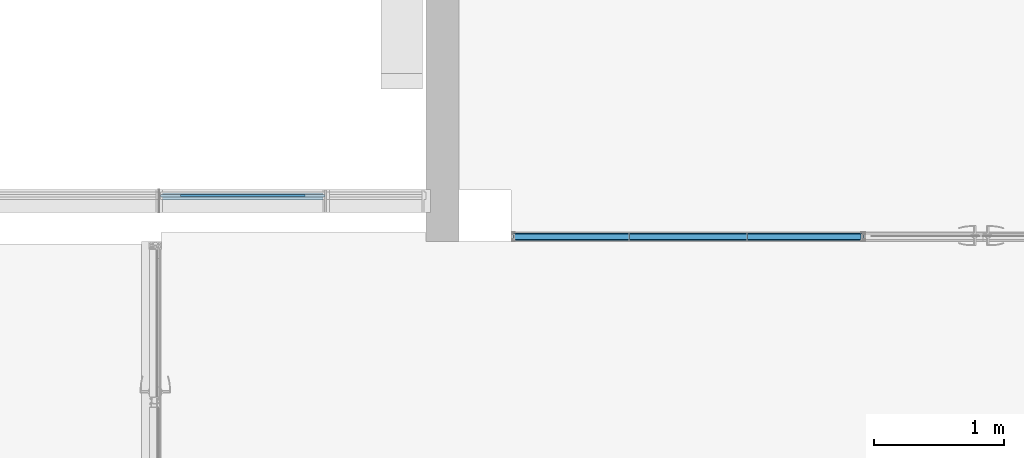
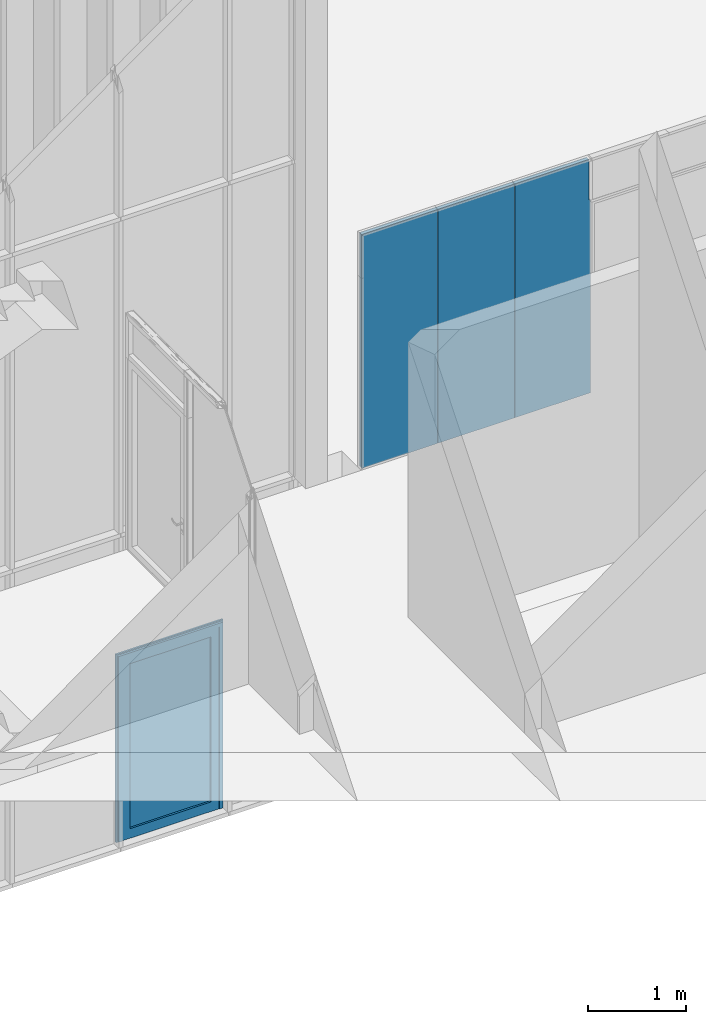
# One storey, part 42 of 62: 8 building element parts, 6 elements without a shape of their own.
"""IFC2X3 building model written with IfcOpenShell, lengths in millimetres."""

from ifc_helpers import new_model, entity, si_unit, converted_unit, derived_unit, money_unit, direction, frame, origin_with_axes, place, context, subcontext, project, spatial, faceted_brep, material, type_object, element, aggregate, save


model = new_model("IFC2X3")

# Units and contexts
model_context = context("Model", 3, precision=0.01, world=origin_with_axes(), true_north=direction((0.0, 1.0)))
body_context = subcontext(model_context, "Body", "Model", "MODEL_VIEW")
ifc_project = project(units=[si_unit("LENGTHUNIT", "METRE", prefix="MILLI"), si_unit("AREAUNIT", "SQUARE_METRE"), si_unit("VOLUMEUNIT", "CUBIC_METRE"), converted_unit("PLANEANGLEUNIT", "DEGREE", entity("IfcPlaneAngleMeasure", 0.0174532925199), si_unit("PLANEANGLEUNIT", "RADIAN"), dimensions=[0, 0, 0, 0, 0, 0, 0]), si_unit("SOLIDANGLEUNIT", "STERADIAN"), money_unit("EUR"), converted_unit("TIMEUNIT", "Year", entity("IfcTimeMeasure", 31556926.0), si_unit("TIMEUNIT", "SECOND"), dimensions=[0, 0, 1, 0, 0, 0, 0]), si_unit("MASSUNIT", "GRAM", prefix="KILO"), si_unit("THERMODYNAMICTEMPERATUREUNIT", "DEGREE_CELSIUS"), si_unit("LUMINOUSINTENSITYUNIT", "LUMEN"), si_unit("ENERGYUNIT", "JOULE", prefix="MEGA"), derived_unit("THERMALCONDUCTANCEUNIT", [(si_unit("POWERUNIT", "WATT"), 1), (si_unit("LENGTHUNIT", "METRE"), -1), (si_unit("THERMODYNAMICTEMPERATUREUNIT", "KELVIN"), -1)]), derived_unit("SPECIFICHEATCAPACITYUNIT", [(si_unit("ENERGYUNIT", "JOULE"), 1), (si_unit("MASSUNIT", "GRAM", prefix="KILO"), -1), (si_unit("THERMODYNAMICTEMPERATUREUNIT", "KELVIN"), -1)]), derived_unit("MASSDENSITYUNIT", [(si_unit("MASSUNIT", "GRAM", prefix="KILO"), 1), (si_unit("VOLUMEUNIT", "CUBIC_METRE"), -1)])], contexts=[model_context])

# Site, building, storey
site_placement = place(None, origin_with_axes())
site = spatial("IfcSite", under=ifc_project, at=site_placement, Name="Puškini 31, Narva", CompositionType="ELEMENT")
building_placement = place(site_placement, origin_with_axes())
building = spatial("IfcBuilding", under=site, at=building_placement, Name="Narva Riigigümnaasium", CompositionType="ELEMENT")
storey_placement = place(building_placement, frame((0.0, 0.0, 660.0), z_axis=(0.0, 0.0, 1.0), x_axis=(1.0, 0.0, 0.0)))
storey = spatial("IfcBuildingStorey", under=building, at=storey_placement, Name="2.korrus +0.66", CompositionType="ELEMENT", Elevation=660.0)

# Curtain wall, door, building element parts
curtain_wall_type = type_object("IfcCurtainWallType", Name="Curtain Wall Type", PredefinedType="NOTDEFINED")
curtain_wall_1_placement = place(storey_placement, frame((29287.8078111, 224154.987122, -3960.0), z_axis=(0.0, 0.0, 1.0), x_axis=(1.0, 0.0, 0.0)))
curtain_wall_1 = element("IfcCurtainWall", 1, at=curtain_wall_1_placement, inside=storey, type_object=curtain_wall_type, Name="G-KLF-05")
door_style = type_object("IfcDoorStyle", Name="3 x 2355 x 20", ConstructionType="NOTDEFINED", OperationType="NOTDEFINED", ParameterTakesPrecedence=False, Sizeable=False)
door_placement = place(curtain_wall_1_placement, frame((6452.3748062, 0.0, 1200.00000063), z_axis=(0.0, 0.0, 1.0), x_axis=(1.0, 0.0, 0.0)))
door = element("IfcDoor", 2, at=door_placement, type_object=door_style, Name="G-KLF-05-VU-01", ObjectType="DOOR")
aggregate(curtain_wall_1, [door])
ifc_material_1 = material(Name="ET-04_Alumiinium")
building_element_part_1_placement = place(door_placement, origin_with_axes())
building_element_part_1 = element("IfcBuildingElementPart", 3, at=building_element_part_1_placement, material=ifc_material_1, Name="ET-04_Alumiinium", context=body_context, shape_type="Brep", body=[
    faceted_brep([(-829.381638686, -35.0, -1150.00000061), (-829.381638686, -35.0, 1175.00000062), (-829.381638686, -30.0, 1175.00000062), (-829.381638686, -30.0, -1150.00000061), (-784.381638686, -35.0, -1150.00000061), (-784.381638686, -35.0, 1130.00000062), (-784.381638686, -30.0, 1130.00000062), (-784.381638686, -30.0, -1150.00000061)], [[[0, 1, 2, 3]], [[0, 4, 5, 1]], [[1, 5, 6, 2]], [[3, 2, 6, 7]], [[4, 0, 3, 7]], [[5, 4, 7, 6]]]),
    faceted_brep([(408.770568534, -35.0, 1175.00000062), (363.770568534, -35.0, 1130.00000062), (363.770568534, -30.0, 1130.00000062), (408.770568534, -30.0, 1175.00000062), (-829.381638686, -35.0, 1175.00000062), (-784.381638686, -35.0, 1130.00000062), (-784.381638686, -30.0, 1130.00000062), (-829.381638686, -30.0, 1175.00000062)], [[[0, 1, 2, 3]], [[0, 4, 5, 1]], [[1, 5, 6, 2]], [[3, 2, 6, 7]], [[4, 0, 3, 7]], [[5, 4, 7, 6]]]),
    faceted_brep([(408.770568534, -35.0, -1150.00000061), (363.770568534, -35.0, -1150.00000061), (363.770568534, -30.0, -1150.00000061), (408.770568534, -30.0, -1150.00000061), (408.770568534, -35.0, 1175.00000062), (363.770568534, -35.0, 1130.00000062), (363.770568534, -30.0, 1130.00000062), (408.770568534, -30.0, 1175.00000062)], [[[0, 1, 2, 3]], [[0, 4, 5, 1]], [[1, 5, 6, 2]], [[3, 2, 6, 7]], [[4, 0, 3, 7]], [[5, 4, 7, 6]]]),
    faceted_brep([(-829.381638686, -30.0, -1150.00000061), (-829.381638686, -30.0, 1175.00000062), (-829.381638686, 20.0, 1175.00000062), (-829.381638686, 20.0, -1150.00000061), (-809.381638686, -30.0, -1150.00000061), (-809.381638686, -30.0, 1155.00000062), (-809.381638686, 20.0, 1155.00000062), (-809.381638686, 20.0, -1150.00000061)], [[[0, 1, 2, 3]], [[0, 4, 5, 1]], [[1, 5, 6, 2]], [[3, 2, 6, 7]], [[4, 0, 3, 7]], [[5, 4, 7, 6]]]),
    faceted_brep([(408.770568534, -30.0, 1175.00000062), (388.770568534, -30.0, 1155.00000062), (388.770568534, 20.0, 1155.00000062), (408.770568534, 20.0, 1175.00000062), (-829.381638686, -30.0, 1175.00000062), (-809.381638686, -30.0, 1155.00000062), (-809.381638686, 20.0, 1155.00000062), (-829.381638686, 20.0, 1175.00000062)], [[[0, 1, 2, 3]], [[0, 4, 5, 1]], [[1, 5, 6, 2]], [[3, 2, 6, 7]], [[4, 0, 3, 7]], [[5, 4, 7, 6]]]),
    faceted_brep([(408.770568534, -30.0, -1150.00000061), (388.770568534, -30.0, -1150.00000061), (388.770568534, 20.0, -1150.00000061), (408.770568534, 20.0, -1150.00000061), (408.770568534, -30.0, 1175.00000062), (388.770568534, -30.0, 1155.00000062), (388.770568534, 20.0, 1155.00000062), (408.770568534, 20.0, 1175.00000062)], [[[0, 1, 2, 3]], [[0, 4, 5, 1]], [[1, 5, 6, 2]], [[3, 2, 6, 7]], [[4, 0, 3, 7]], [[5, 4, 7, 6]]]),
    faceted_brep([(423.770568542, -9.99999999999, -1165.00000062), (-844.381638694, -9.99999999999, -1165.00000062), (-844.381638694, 9.99999999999, -1165.00000062), (423.770568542, 9.99999999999, -1165.00000062), (408.770568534, -9.99999999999, -1150.00000061), (-829.381638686, -9.99999999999, -1150.00000061), (-829.381638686, 9.99999999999, -1150.00000061), (408.770568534, 9.99999999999, -1150.00000061)], [[[0, 1, 2, 3]], [[0, 4, 5, 1]], [[1, 5, 6, 2]], [[3, 2, 6, 7]], [[4, 0, 3, 7]], [[5, 4, 7, 6]]]),
    faceted_brep([(-844.381638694, -9.99999999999, -1165.00000062), (-844.381638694, -9.99999999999, 1190.00000063), (-844.381638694, 9.99999999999, 1190.00000063), (-844.381638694, 9.99999999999, -1165.00000062), (-829.381638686, -9.99999999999, -1150.00000061), (-829.381638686, -9.99999999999, 1175.00000062), (-829.381638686, 9.99999999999, 1175.00000062), (-829.381638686, 9.99999999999, -1150.00000061)], [[[0, 1, 2, 3]], [[0, 4, 5, 1]], [[1, 5, 6, 2]], [[3, 2, 6, 7]], [[4, 0, 3, 7]], [[5, 4, 7, 6]]]),
    faceted_brep([(-844.381638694, -9.99999999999, 1190.00000063), (423.770568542, -9.99999999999, 1190.00000063), (423.770568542, 9.99999999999, 1190.00000063), (-844.381638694, 9.99999999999, 1190.00000063), (-829.381638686, -9.99999999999, 1175.00000062), (408.770568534, -9.99999999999, 1175.00000062), (408.770568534, 9.99999999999, 1175.00000062), (-829.381638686, 9.99999999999, 1175.00000062)], [[[0, 1, 2, 3]], [[0, 4, 5, 1]], [[1, 5, 6, 2]], [[3, 2, 6, 7]], [[4, 0, 3, 7]], [[5, 4, 7, 6]]]),
    faceted_brep([(423.770568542, -9.99999999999, 1190.00000063), (423.770568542, -9.99999999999, -1165.00000062), (423.770568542, 9.99999999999, -1165.00000062), (423.770568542, 9.99999999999, 1190.00000063), (408.770568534, -9.99999999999, 1175.00000062), (408.770568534, -9.99999999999, -1150.00000061), (408.770568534, 9.99999999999, -1150.00000061), (408.770568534, 9.99999999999, 1175.00000062)], [[[0, 1, 2, 3]], [[0, 4, 5, 1]], [[1, 5, 6, 2]], [[3, 2, 6, 7]], [[4, 0, 3, 7]], [[5, 4, 7, 6]]]),
    faceted_brep([(268.770568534, -30.0, -1030.00000061), (268.770568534, -30.0, 1035.00000062), (268.770568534, 20.0, 1035.00000062), (268.770568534, 20.0, -1030.00000061), (388.770568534, -30.0, -1150.00000061), (388.770568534, -30.0, 1155.00000062), (388.770568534, 20.0, 1155.00000062), (388.770568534, 20.0, -1150.00000061)], [[[0, 1, 2, 3]], [[0, 4, 5, 1]], [[1, 5, 6, 2]], [[3, 2, 6, 7]], [[4, 0, 3, 7]], [[5, 4, 7, 6]]]),
    faceted_brep([(-809.381638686, -30.0, -1150.00000061), (-809.381638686, -30.0, 1155.00000062), (-809.381638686, 20.0, 1155.00000062), (-809.381638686, 20.0, -1150.00000061), (-689.381638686, -30.0, -1030.00000061), (-689.381638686, -30.0, 1035.00000062), (-689.381638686, 20.0, 1035.00000062), (-689.381638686, 20.0, -1030.00000061)], [[[0, 1, 2, 3]], [[0, 4, 5, 1]], [[1, 5, 6, 2]], [[3, 2, 6, 7]], [[4, 0, 3, 7]], [[5, 4, 7, 6]]]),
    faceted_brep([(-809.381638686, -30.0, -1150.00000061), (-689.381638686, -30.0, -1030.00000061), (-689.381638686, 20.0, -1030.00000061), (-809.381638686, 20.0, -1150.00000061), (388.770568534, -30.0, -1150.00000061), (268.770568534, -30.0, -1030.00000061), (268.770568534, 20.0, -1030.00000061), (388.770568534, 20.0, -1150.00000061)], [[[0, 1, 2, 3]], [[0, 4, 5, 1]], [[1, 5, 6, 2]], [[3, 2, 6, 7]], [[4, 0, 3, 7]], [[5, 4, 7, 6]]]),
    faceted_brep([(388.770568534, -30.0, 1155.00000062), (268.770568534, -30.0, 1035.00000062), (268.770568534, 20.0, 1035.00000062), (388.770568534, 20.0, 1155.00000062), (-809.381638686, -30.0, 1155.00000062), (-689.381638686, -30.0, 1035.00000062), (-689.381638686, 20.0, 1035.00000062), (-809.381638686, 20.0, 1155.00000062)], [[[0, 1, 2, 3]], [[0, 4, 5, 1]], [[1, 5, 6, 2]], [[3, 2, 6, 7]], [[4, 0, 3, 7]], [[5, 4, 7, 6]]]),
])
ifc_material_2 = material(Name="VKR-05_Klaas")
building_element_part_2_placement = place(door_placement, origin_with_axes())
building_element_part_2 = element("IfcBuildingElementPart", 4, at=building_element_part_2_placement, material=ifc_material_2, Name="VKR-05_Klaas", context=body_context, shape_type="Brep", body=[
    faceted_brep([(268.770568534, -6.0, -1030.00000061), (-689.381638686, -6.0, -1030.00000061), (-689.381638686, 9.99999999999, -1030.00000061), (268.770568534, 9.99999999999, -1030.00000061), (268.770568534, -6.0, 1035.00000062), (-689.381638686, -6.0, 1035.00000062), (-689.381638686, 9.99999999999, 1035.00000062), (268.770568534, 9.99999999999, 1035.00000062)], [[[0, 1, 2, 3]], [[0, 4, 5, 1]], [[1, 5, 6, 2]], [[3, 2, 6, 7]], [[4, 0, 3, 7]], [[5, 4, 7, 6]]]),
])
aggregate(door, [building_element_part_1, building_element_part_2])

# Curtain wall, plates, building element parts
curtain_wall_2_placement = place(storey_placement, frame((41241.6, 223837.000007, -1.99739158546e-06), z_axis=(0.0, 0.0, 1.0), x_axis=(1.0, 0.0, 0.0)))
curtain_wall_2 = element("IfcCurtainWall", 5, at=curtain_wall_2_placement, inside=storey, type_object=curtain_wall_type, Name="G-SKLF-53")
plate_type_1 = type_object("IfcPlateType", Name="879 x 535 x 10", PredefinedType="CURTAIN_PANEL")
plate_1_placement = place(curtain_wall_2_placement, frame((-1308.00000303, 0.0, 1875.71428298), z_axis=(0.0, 0.0, 1.0), x_axis=(-1.0, 0.0, 0.0)))
plate_1 = element("IfcPlate", 6, at=plate_1_placement, type_object=plate_type_1, Name="G-SKLF-53-klaas", ObjectType="CURTAIN_PANEL")
building_element_part_3_placement = place(plate_1_placement, origin_with_axes())
building_element_part_3 = element("IfcBuildingElementPart", 7, at=building_element_part_3_placement, material=ifc_material_2, Name="VKR-05_Klaas", context=body_context, shape_type="Brep", body=[
    faceted_brep([(-367.599967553, 29.0, 1059.28571969), (-367.599967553, 20.0, 1059.28571969), (511.300002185, 20.0, 1059.28571969), (511.300002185, 29.0, 1059.28571969), (-367.599967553, 29.0, 554.285703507), (-367.599967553, 20.0, 554.285703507), (-384.599981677, 20.0, 554.285703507), (-384.599981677, 20.0, -1860.71429121), (511.300002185, 20.0, -1860.71429121), (511.300002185, 29.0, -1860.71429121), (-384.599981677, 29.0, -1860.71429121), (-384.599981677, 29.0, 554.285703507)], [[[0, 1, 2, 3]], [[4, 5, 1, 0]], [[1, 5, 6, 7, 8, 2]], [[3, 2, 8, 9]], [[0, 3, 9, 10, 11, 4]], [[11, 6, 5, 4]], [[10, 7, 6, 11]], [[9, 8, 7, 10]]]),
    faceted_brep([(-367.599967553, -20.0, 1059.28571969), (-367.599967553, -29.0, 1059.28571969), (511.300002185, -29.0, 1059.28571969), (511.300002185, -20.0, 1059.28571969), (-367.599967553, -20.0, 554.285703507), (-367.599967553, -29.0, 554.285703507), (-384.599981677, -29.0, 554.285703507), (-384.599981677, -29.0, -1860.71429121), (511.300002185, -29.0, -1860.71429121), (511.300002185, -20.0, -1860.71429121), (-384.599981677, -20.0, -1860.71429121), (-384.599981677, -20.0, 554.285703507)], [[[0, 1, 2, 3]], [[4, 5, 1, 0]], [[1, 5, 6, 7, 8, 2]], [[3, 2, 8, 9]], [[0, 3, 9, 10, 11, 4]], [[11, 6, 5, 4]], [[10, 7, 6, 11]], [[9, 8, 7, 10]]]),
])
ifc_material_3 = material(Name="VKR-06_Õhkvahe")
building_element_part_4_placement = place(plate_1_placement, origin_with_axes())
building_element_part_4 = element("IfcBuildingElementPart", 8, at=building_element_part_4_placement, material=ifc_material_3, Name="VKR-06_Õhkvahe", context=body_context, shape_type="Brep", body=[
    faceted_brep([(-367.599967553, 20.0, 1059.28571969), (-367.599967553, -20.0, 1059.28571969), (511.300002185, -20.0, 1059.28571969), (511.300002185, 20.0, 1059.28571969), (-367.599967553, 20.0, 554.285703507), (-367.599967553, -20.0, 554.285703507), (-384.599981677, -20.0, 554.285703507), (-384.599981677, -20.0, -1860.71429121), (511.300002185, -20.0, -1860.71429121), (511.300002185, 20.0, -1860.71429121), (-384.599981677, 20.0, -1860.71429121), (-384.599981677, 20.0, 554.285703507)], [[[0, 1, 2, 3]], [[4, 5, 1, 0]], [[1, 5, 6, 7, 8, 2]], [[3, 2, 8, 9]], [[0, 3, 9, 10, 11, 4]], [[11, 6, 5, 4]], [[10, 7, 6, 11]], [[9, 8, 7, 10]]]),
])
aggregate(plate_1, [building_element_part_3, building_element_part_4])
plate_type_2 = type_object("IfcPlateType", Name="894 x 535 x 10", PredefinedType="CURTAIN_PANEL")
plate_2_placement = place(curtain_wall_2_placement, frame((-3186.4, 0.0, 1783.33333148), z_axis=(0.0, 0.0, 1.0), x_axis=(-1.0, 0.0, 0.0)))
plate_2 = element("IfcPlate", 9, at=plate_2_placement, type_object=plate_type_2, Name="G-SKLF-53-klaas", ObjectType="CURTAIN_PANEL")
building_element_part_5_placement = place(plate_2_placement, origin_with_axes())
building_element_part_5 = element("IfcBuildingElementPart", 10, at=building_element_part_5_placement, material=ifc_material_2, Name="VKR-05_Klaas", context=body_context, shape_type="Brep", body=[
    faceted_brep([(-453.699997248, 29.0, 1151.66667119), (-453.699997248, 20.0, 1151.66667119), (440.200008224, 20.0, 1151.66667119), (440.200008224, 29.0, 1151.66667119), (-453.699997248, 29.0, -1768.33333971), (-453.699997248, 20.0, -1768.33333971), (440.200008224, 20.0, -1768.33333971), (440.200008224, 29.0, -1768.33333971)], [[[0, 1, 2, 3]], [[4, 5, 1, 0]], [[1, 5, 6, 2]], [[3, 2, 6, 7]], [[0, 3, 7, 4]], [[7, 6, 5, 4]]]),
    faceted_brep([(-453.699997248, -20.0, 1151.66667119), (-453.699997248, -29.0, 1151.66667119), (440.200008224, -29.0, 1151.66667119), (440.200008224, -20.0, 1151.66667119), (-453.699997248, -20.0, -1768.33333971), (-453.699997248, -29.0, -1768.33333971), (440.200008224, -29.0, -1768.33333971), (440.200008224, -20.0, -1768.33333971)], [[[0, 1, 2, 3]], [[4, 5, 1, 0]], [[1, 5, 6, 2]], [[3, 2, 6, 7]], [[0, 3, 7, 4]], [[7, 6, 5, 4]]]),
])
building_element_part_6_placement = place(plate_2_placement, origin_with_axes())
building_element_part_6 = element("IfcBuildingElementPart", 11, at=building_element_part_6_placement, material=ifc_material_3, Name="VKR-06_Õhkvahe", context=body_context, shape_type="Brep", body=[
    faceted_brep([(-453.699997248, 20.0, 1151.66667119), (-453.699997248, -20.0, 1151.66667119), (440.200008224, -20.0, 1151.66667119), (440.200008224, 20.0, 1151.66667119), (-453.699997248, 20.0, -1768.33333971), (-453.699997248, -20.0, -1768.33333971), (440.200008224, -20.0, -1768.33333971), (440.200008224, 20.0, -1768.33333971)], [[[0, 1, 2, 3]], [[4, 5, 1, 0]], [[1, 5, 6, 2]], [[3, 2, 6, 7]], [[0, 3, 7, 4]], [[7, 6, 5, 4]]]),
])
aggregate(plate_2, [building_element_part_5, building_element_part_6])
plate_type_3 = type_object("IfcPlateType", Name="907 x 535 x 10", PredefinedType="CURTAIN_PANEL")
plate_3_placement = place(curtain_wall_2_placement, frame((-2276.0, 0.0, 1783.33333148), z_axis=(0.0, 0.0, 1.0), x_axis=(-1.0, 0.0, 0.0)))
plate_3 = element("IfcPlate", 12, at=plate_3_placement, type_object=plate_type_3, Name="G-SKLF-53-klaas", ObjectType="CURTAIN_PANEL")
aggregate(curtain_wall_2, [plate_1, plate_2, plate_3])
building_element_part_7_placement = place(plate_3_placement, origin_with_axes())
building_element_part_7 = element("IfcBuildingElementPart", 13, at=building_element_part_7_placement, material=ifc_material_2, Name="VKR-05_Klaas", context=body_context, shape_type="Brep", body=[
    faceted_brep([(-453.699997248, 29.0, 1151.66667119), (-453.699997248, 20.0, 1151.66667119), (453.700005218, 20.0, 1151.66667119), (453.700005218, 29.0, 1151.66667119), (-453.699997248, 29.0, -1768.33333971), (-453.699997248, 20.0, -1768.33333971), (453.700005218, 20.0, -1768.33333971), (453.700005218, 29.0, -1768.33333971)], [[[0, 1, 2, 3]], [[4, 5, 1, 0]], [[1, 5, 6, 2]], [[3, 2, 6, 7]], [[0, 3, 7, 4]], [[7, 6, 5, 4]]]),
    faceted_brep([(-453.699997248, -20.0, 1151.66667119), (-453.699997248, -29.0, 1151.66667119), (453.700005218, -29.0, 1151.66667119), (453.700005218, -20.0, 1151.66667119), (-453.699997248, -20.0, -1768.33333971), (-453.699997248, -29.0, -1768.33333971), (453.700005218, -29.0, -1768.33333971), (453.700005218, -20.0, -1768.33333971)], [[[0, 1, 2, 3]], [[4, 5, 1, 0]], [[1, 5, 6, 2]], [[3, 2, 6, 7]], [[0, 3, 7, 4]], [[7, 6, 5, 4]]]),
])
building_element_part_8_placement = place(plate_3_placement, origin_with_axes())
building_element_part_8 = element("IfcBuildingElementPart", 14, at=building_element_part_8_placement, material=ifc_material_3, Name="VKR-06_Õhkvahe", context=body_context, shape_type="Brep", body=[
    faceted_brep([(-453.699997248, 20.0, 1151.66667119), (-453.699997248, -20.0, 1151.66667119), (453.700005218, -20.0, 1151.66667119), (453.700005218, 20.0, 1151.66667119), (-453.699997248, 20.0, -1768.33333971), (-453.699997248, -20.0, -1768.33333971), (453.700005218, -20.0, -1768.33333971), (453.700005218, 20.0, -1768.33333971)], [[[0, 1, 2, 3]], [[4, 5, 1, 0]], [[1, 5, 6, 2]], [[3, 2, 6, 7]], [[0, 3, 7, 4]], [[7, 6, 5, 4]]]),
])
aggregate(plate_3, [building_element_part_7, building_element_part_8])

save(model, "model.ifc")
